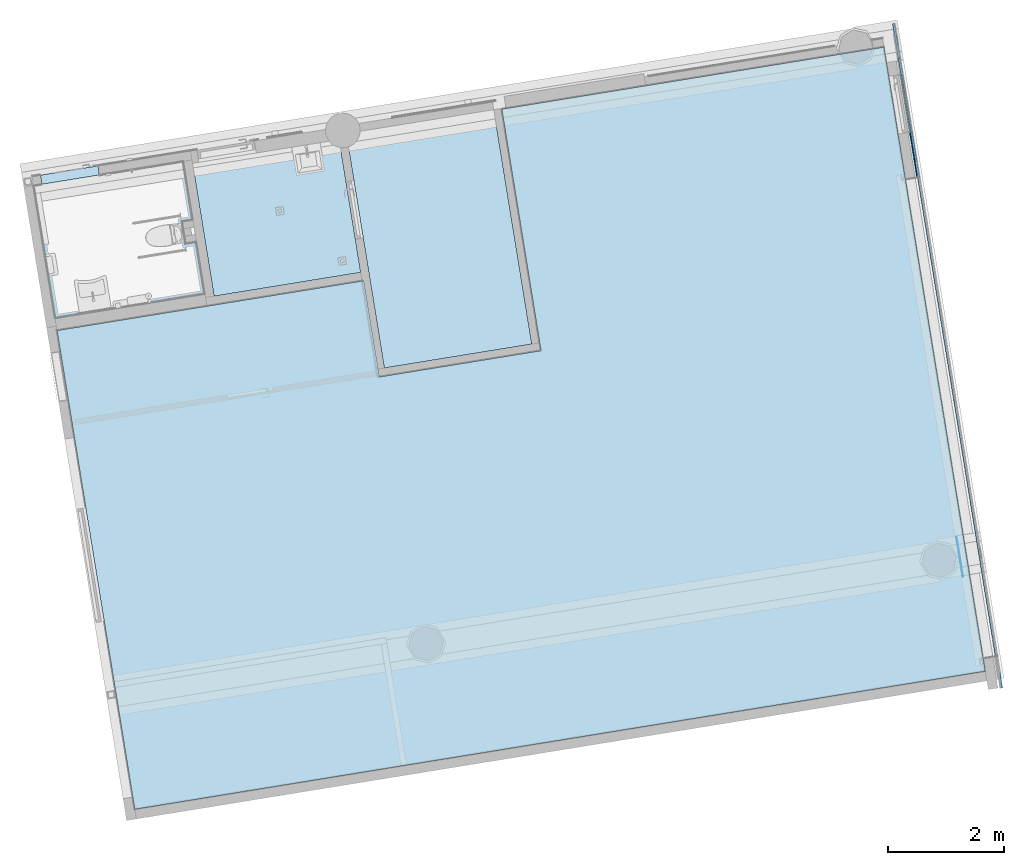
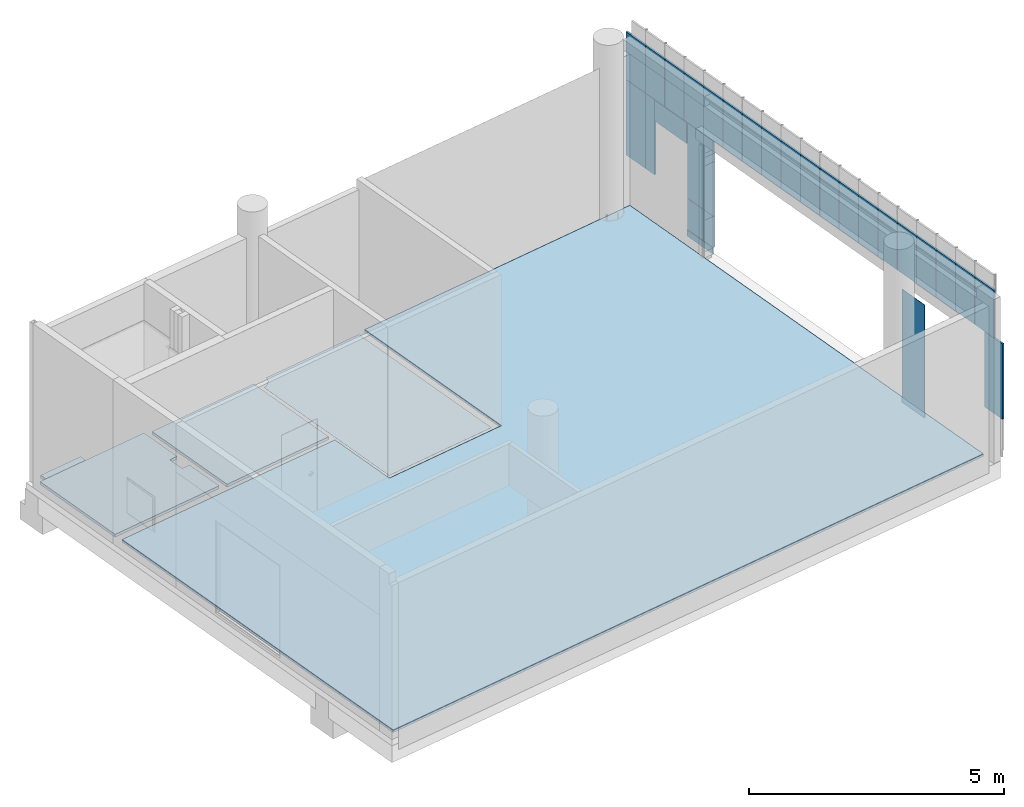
# One storey, part 13 of 38: 29 plates, 7 slabs, 2 elements without a shape of their own.
"""IFC2X3 building model written with IfcOpenShell, lengths in millimetres."""

import ifcopenshell
import ifcopenshell.guid

model = None  # the IFC model being written
_history = None  # IfcOwnerHistory: only IFC2X3 demands one
_inside = {}  # id of a spatial element -> (the spatial element, [elements in it])
_under = {}  # id of a project, library or spatial element -> (it, [spatial elements below it])
_declared = {}  # id of a project -> (the project, [libraries it declares])
_typed = {}  # id of a type object -> (the type object, [elements of that type])
_made_of = {}  # id of a material, layer set ... -> (it, [elements and type objects made of it])


def new_model(schema):
    """Start an empty IFC model of exactly this schema.

    Asked for "IFC4X3", IfcOpenShell would pick the latest addendum, in which some entities
    have other attributes; the version numbers below select the first issue.
    IFC2X3 requires an IfcOwnerHistory on every rooted entity: one is made here for all.
    """
    global model, _history
    if schema == "IFC4X3":
        model = ifcopenshell.file(schema_version=(4, 3, 0, 0))
    else:
        model = ifcopenshell.file(schema=schema)
    _inside.clear()
    _under.clear()
    _declared.clear()
    _typed.clear()
    _made_of.clear()
    _history = None
    if model.schema == "IFC2X3":
        org = make("IfcOrganization", Name="unknown")
        user = make(
            "IfcPersonAndOrganization",
            ThePerson=make("IfcPerson", FamilyName="unknown"),
            TheOrganization=org,
        )
        app = make(
            "IfcApplication",
            ApplicationDeveloper=org,
            Version="unknown",
            ApplicationFullName="unknown",
            ApplicationIdentifier="unknown",
        )
        _history = make(
            "IfcOwnerHistory",
            OwningUser=user,
            OwningApplication=app,
            ChangeAction="ADDED",
            CreationDate=0,
        )
    return model


def make(cls, **values):
    """One entity of the class cls with the attributes given. An attribute that is None is left unset."""
    return model.create_entity(
        cls, **{name: value for name, value in values.items() if value is not None}
    )


def entity(cls, *values):
    """Any entity or typed value of the class cls, its attributes in the order of the schema. None: left unset."""
    e = model.create_entity(cls)
    for i, value in enumerate(values):
        if value is not None:
            e[i] = value
    return e


def rooted(cls, **values):
    """An entity with a GlobalId (a new one), such as an element, a storey or a relation."""
    return make(cls, GlobalId=ifcopenshell.guid.new(), OwnerHistory=_history, **values)


def si_unit(unit_type, name, prefix=None):
    """IfcSIUnit, for example si_unit("LENGTHUNIT", "METRE", prefix="MILLI")."""
    return make("IfcSIUnit", UnitType=unit_type, Prefix=prefix, Name=name)


def converted_unit(unit_type, name, factor, base, dimensions=None, offset=None):
    """IfcConversionBasedUnit, such as the inch: factor (a typed value) times the base unit."""
    return make(
        "IfcConversionBasedUnit"
        if offset is None
        else "IfcConversionBasedUnitWithOffset",
        ConversionOffset=offset,
        Dimensions=None
        if dimensions is None
        else entity("IfcDimensionalExponents", *dimensions),
        UnitType=unit_type,
        Name=name,
        ConversionFactor=make(
            "IfcMeasureWithUnit", ValueComponent=factor, UnitComponent=base
        ),
    )


def derived_unit(unit_type, elements):
    """IfcDerivedUnit: a product of units, each with its exponent."""
    return make(
        "IfcDerivedUnit",
        Elements=[
            make("IfcDerivedUnitElement", Unit=unit, Exponent=power)
            for unit, power in elements
        ],
        UnitType=unit_type,
    )


def assignment(units):
    """IfcUnitAssignment: the units of a project."""
    return None if units is None else make("IfcUnitAssignment", Units=units)


def point(xyz):
    """IfcCartesianPoint."""
    return None if xyz is None else make("IfcCartesianPoint", Coordinates=xyz)


def direction(xyz):
    """IfcDirection."""
    return None if xyz is None else make("IfcDirection", DirectionRatios=xyz)


def frame(location, z_axis=None, x_axis=None):
    """IfcAxis2Placement3D, a coordinate frame: its origin and axes. An axis left out is left unset."""
    return make(
        "IfcAxis2Placement3D",
        Location=point(location),
        Axis=direction(z_axis),
        RefDirection=direction(x_axis),
    )


def frame_2d(location, x_axis=None):
    """IfcAxis2Placement2D, a coordinate frame in the plane: its origin and x axis."""
    return make(
        "IfcAxis2Placement2D", Location=point(location), RefDirection=direction(x_axis)
    )


def origin():
    """The frame at (0, 0, 0) with its axes left unset."""
    return frame((0.0, 0.0, 0.0))


def origin_with_axes():
    """The frame at (0, 0, 0) with the z axis (0, 0, 1) and the x axis (1, 0, 0) written out."""
    return frame((0.0, 0.0, 0.0), z_axis=(0.0, 0.0, 1.0), x_axis=(1.0, 0.0, 0.0))


def origin_2d_with_axis():
    """The frame at (0, 0) in the plane with the x axis (1, 0) written out."""
    return frame_2d((0.0, 0.0), x_axis=(1.0, 0.0))


def place(relative_to, where):
    """IfcLocalPlacement: puts the frame where relative to a parent placement (None: the world)."""
    return make(
        "IfcLocalPlacement", PlacementRelTo=relative_to, RelativePlacement=where
    )


def context(
    kind, dimensions, precision=None, world=None, true_north=None, identifier=None
):
    """IfcGeometricRepresentationContext, for example the 3D "Model" context."""
    return make(
        "IfcGeometricRepresentationContext",
        ContextIdentifier=identifier,
        ContextType=kind,
        CoordinateSpaceDimension=dimensions,
        Precision=precision,
        WorldCoordinateSystem=world,
        TrueNorth=true_north,
    )


def subcontext(parent, identifier, kind, view, scale=None):
    """IfcGeometricRepresentationSubContext, for example "Body" below "Model"."""
    return make(
        "IfcGeometricRepresentationSubContext",
        ContextIdentifier=identifier,
        ContextType=kind,
        ParentContext=parent,
        TargetScale=scale,
        TargetView=view,
    )


def project(units=None, contexts=None):
    """IfcProject with its units and contexts."""
    return rooted(
        "IfcProject",
        Name="project",
        RepresentationContexts=contexts,
        UnitsInContext=assignment(units),
    )


def spatial(cls, under=None, at=None, **own):
    """A site, building, storey or space (cls), placed at a placement, below another one or the project."""
    s = rooted(cls, ObjectPlacement=at, **own)
    if under is not None:
        _under.setdefault(under.id(), (under, []))[1].append(s)
    return s


def polyline(points):
    """IfcPolyline through the points."""
    return make("IfcPolyline", Points=[point(p) for p in points])


def circle_curve(where, radius):
    """IfcCircle in the frame where."""
    return make("IfcCircle", Position=where, Radius=radius)


def parameter(value):
    """IfcParameterValue: where a trimmed curve begins or ends, as a parameter of its basis curve."""
    return model.create_entity("IfcParameterValue", value)


def trimmed(basis, trim1, trim2, sense, master):
    """IfcTrimmedCurve: the piece of a basis curve between two trims."""
    return make(
        "IfcTrimmedCurve",
        BasisCurve=basis,
        Trim1=trim1,
        Trim2=trim2,
        SenseAgreement=sense,
        MasterRepresentation=master,
    )


def segment(curve, same_sense, transition):
    """IfcCompositeCurveSegment."""
    return make(
        "IfcCompositeCurveSegment",
        Transition=transition,
        SameSense=same_sense,
        ParentCurve=curve,
    )


def composite_curve(segments, self_intersect=None):
    """IfcCompositeCurve: segments joined end to end."""
    return make("IfcCompositeCurve", Segments=segments, SelfIntersect=self_intersect)


def profile(cls, at=None, kind="AREA", **sizes):
    """A parametric profile (cls). Its sizes go by their IFC names, for example OverallWidth=200.0."""
    return make(cls, ProfileType=kind, Position=at, **sizes)


def rectangle(**sizes):
    """IfcRectangleProfileDef."""
    return profile("IfcRectangleProfileDef", **sizes)


def outline(outer, holes=None, kind="AREA"):
    """IfcArbitraryClosedProfileDef: a profile drawn as a closed curve; with holes, ...WithVoids."""
    if holes is None:
        return make("IfcArbitraryClosedProfileDef", ProfileType=kind, OuterCurve=outer)
    return make(
        "IfcArbitraryProfileDefWithVoids",
        ProfileType=kind,
        OuterCurve=outer,
        InnerCurves=holes,
    )


def extrude(swept, where, along, depth):
    """IfcExtrudedAreaSolid: the profile swept, set in the frame where, extruded along a direction by depth."""
    return make(
        "IfcExtrudedAreaSolid",
        SweptArea=swept,
        Position=where,
        ExtrudedDirection=direction(along),
        Depth=depth,
    )


def shape(context_of_items, identifier, shape_type, items):
    """IfcShapeRepresentation: the items that make up one representation, for example the "Body"."""
    return make(
        "IfcShapeRepresentation",
        ContextOfItems=context_of_items,
        RepresentationIdentifier=identifier,
        RepresentationType=shape_type,
        Items=items,
    )


def source(mapping_origin, context_of_items, identifier, shape_type, items):
    """IfcRepresentationMap: a shape defined once, which mapped items show again and again."""
    return make(
        "IfcRepresentationMap",
        MappingOrigin=mapping_origin,
        MappedRepresentation=shape(context_of_items, identifier, shape_type, items),
    )


def transform(
    local_origin,
    x_axis=None,
    y_axis=None,
    z_axis=None,
    scale=None,
    scale2=None,
    scale3=None,
    uniform=True,
):
    """IfcCartesianTransformationOperator3D, or its non-uniform kind. x_axis, y_axis, z_axis: its Axis1, 2, 3."""
    if uniform:
        return make(
            "IfcCartesianTransformationOperator3D",
            Axis1=direction(x_axis),
            Axis2=direction(y_axis),
            LocalOrigin=point(local_origin),
            Scale=scale,
            Axis3=direction(z_axis),
        )
    return make(
        "IfcCartesianTransformationOperator3DnonUniform",
        Axis1=direction(x_axis),
        Axis2=direction(y_axis),
        LocalOrigin=point(local_origin),
        Scale=scale,
        Axis3=direction(z_axis),
        Scale2=scale2,
        Scale3=scale3,
    )


def mapped(mapping_source, mapping_target):
    """IfcMappedItem: shows the shape of a source again, moved by a transform."""
    return make(
        "IfcMappedItem", MappingSource=mapping_source, MappingTarget=mapping_target
    )


def material(Name=None, Category=None):
    """IfcMaterial."""
    return make("IfcMaterial", Name=Name, Category=Category)


def layer(
    of_material, thickness, ventilated=None, Name=None, Category=None, Priority=None
):
    """IfcMaterialLayer: one layer of a wall or slab, of a material (None: an air gap)."""
    return make(
        "IfcMaterialLayer",
        Material=of_material,
        LayerThickness=thickness,
        IsVentilated=ventilated,
        Name=Name,
        Category=Category,
        Priority=Priority,
    )


def layer_set(layers, Name=None):
    """IfcMaterialLayerSet."""
    return make("IfcMaterialLayerSet", MaterialLayers=layers, LayerSetName=Name)


def layer_usage(for_layer_set, set_direction, sense, offset, extent=None):
    """IfcMaterialLayerSetUsage: how a layer set lies in its element."""
    return make(
        "IfcMaterialLayerSetUsage",
        ForLayerSet=for_layer_set,
        LayerSetDirection=set_direction,
        DirectionSense=sense,
        OffsetFromReferenceLine=offset,
        ReferenceExtent=extent,
    )


def made_of(thing, what):
    """Note that an element or type object is made of a material, layer set ...; save() writes the relation."""
    if what is not None:
        _made_of.setdefault(what.id(), (what, []))[1].append(thing)
    return thing


def type_object(cls, material=None, **own):
    """A type object (cls), such as IfcWallType, which elements share."""
    return made_of(rooted(cls, **own), material)


def element(
    cls,
    number,
    at=None,
    inside=None,
    cuts=None,
    type_object=None,
    material=None,
    context=None,
    identifier="Body",
    shape_type=None,
    held_by="IfcProductDefinitionShape",
    body=None,
    shapes=None,
    **own,
):
    """One element of the class cls, such as IfcWall. Its Tag is "e" and its number.

    at: its placement. inside: the storey or other place that contains it. cuts: it is an
    opening in that element (IfcRelVoidsElement). A single representation is given by context,
    identifier, shape_type and body (its items); several are given by shapes. held_by: the class
    of the entity that holds the representations. save() writes the other relations.
    """
    e = rooted(cls, Tag="e%d" % number, ObjectPlacement=at, **own)
    if body is not None:
        shapes = [shape(context, identifier, shape_type, body)]
    if shapes is not None:
        e.Representation = make(held_by, Representations=shapes)
    if inside is not None:
        _inside.setdefault(inside.id(), (inside, []))[1].append(e)
    if cuts is not None:
        rooted(
            "IfcRelVoidsElement", RelatingBuildingElement=cuts, RelatedOpeningElement=e
        )
    if type_object is not None:
        _typed.setdefault(type_object.id(), (type_object, []))[1].append(e)
    return made_of(e, material)


def aggregate(whole, parts):
    """IfcRelAggregates: a whole, such as a stair, and the parts it consists of."""
    return rooted("IfcRelAggregates", RelatingObject=whole, RelatedObjects=parts)


def save(model, path):
    """Write the relations noted so far, then the file.

    IfcRelAggregates (storeys below a building ...), IfcRelContainedInSpatialStructure (elements
    in a storey), IfcRelDefinesByType, IfcRelAssociatesMaterial and IfcRelDeclares: one each for
    every whole, place, type object, material and project.
    """
    for whole, parts in _under.values():
        aggregate(whole, parts)
    for where, things in _inside.values():
        rooted(
            "IfcRelContainedInSpatialStructure",
            RelatedElements=things,
            RelatingStructure=where,
        )
    for kind, things in _typed.values():
        rooted("IfcRelDefinesByType", RelatedObjects=things, RelatingType=kind)
    for what, things in _made_of.values():
        rooted("IfcRelAssociatesMaterial", RelatedObjects=things, RelatingMaterial=what)
    for by, libraries in _declared.values():
        rooted("IfcRelDeclares", RelatingContext=by, RelatedDefinitions=libraries)
    model.write(path)


model = new_model("IFC2X3")

# Units and contexts
model_context = context("Model", 3, precision=0.01, world=origin(), true_north=direction((6.12323399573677e-17, 1.0)))
plan_context = context("Plan", 3, precision=1e-05, world=origin_with_axes())
body_context = subcontext(model_context, "Body", "Model", "MODEL_VIEW")
ifc_project = project(units=[converted_unit("PLANEANGLEUNIT", "DEGREE", entity("IfcPositiveLengthMeasure", 0.0174532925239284), si_unit("PLANEANGLEUNIT", "RADIAN"), dimensions=[0, 0, 0, 0, 0, 0, 0]), si_unit("AREAUNIT", "SQUARE_METRE"), si_unit("LENGTHUNIT", "METRE", prefix="MILLI"), si_unit("MASSUNIT", "GRAM", prefix="KILO"), si_unit("POWERUNIT", "WATT"), si_unit("PRESSUREUNIT", "PASCAL", prefix="KILO"), si_unit("FORCEUNIT", "NEWTON", prefix="KILO"), si_unit("ELECTRICVOLTAGEUNIT", "VOLT"), si_unit("ELECTRICCURRENTUNIT", "AMPERE"), si_unit("THERMODYNAMICTEMPERATUREUNIT", "DEGREE_CELSIUS"), si_unit("TIMEUNIT", "SECOND"), si_unit("VOLUMEUNIT", "CUBIC_METRE"), derived_unit("LINEARVELOCITYUNIT", [(si_unit("LENGTHUNIT", "METRE"), 1), (si_unit("TIMEUNIT", "SECOND"), -1)]), derived_unit("VOLUMETRICFLOWRATEUNIT", [(si_unit("VOLUMEUNIT", "CUBIC_METRE"), 1), (si_unit("TIMEUNIT", "SECOND"), -1)]), derived_unit("THERMALTRANSMITTANCEUNIT", [(si_unit("POWERUNIT", "WATT"), 1), (si_unit("THERMODYNAMICTEMPERATUREUNIT", "KELVIN"), -1), (si_unit("AREAUNIT", "SQUARE_METRE"), -1)]), derived_unit("SOUNDPRESSUREUNIT", [(si_unit("PRESSUREUNIT", "PASCAL"), 1)])], contexts=[model_context, plan_context])

# Site, building, storey
site_placement = place(None, frame((-0.00071070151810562, 0.00438415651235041, 0.0), z_axis=(0.0, 0.0, 1.0), x_axis=(-0.160236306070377, 0.987078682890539, 0.0)))
site = spatial("IfcSite", under=ifc_project, at=site_placement, Name="Default", CompositionType="ELEMENT")
building_placement = place(site_placement, origin_with_axes())
building = spatial("IfcBuilding", under=site, at=building_placement, Name="TOO", CompositionType="ELEMENT")
storey_placement = place(building_placement, frame((0.0, 0.0, 50999.9999999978), z_axis=(0.0, 0.0, 1.0), x_axis=(1.0, 0.0, 0.0)))
storey = spatial("IfcBuildingStorey", under=building, at=storey_placement, Name="Nivå D-H01", CompositionType="ELEMENT", Elevation=50999.9999999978)

# Curtain wall, plates
curtain_wall_type = type_object("IfcCurtainWallType", Name="Curtain Wall:Curtain Wall Standard (Bruk kun denne)", PredefinedType="NOTDEFINED")
curtain_wall_1_placement = place(storey_placement, frame((0.0, 0.0, -50999.9999999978), z_axis=(0.0, 0.0, 1.0), x_axis=(1.0, 0.0, 0.0)))
curtain_wall_1 = element("IfcCurtainWall", 1, at=curtain_wall_1_placement, inside=storey, type_object=curtain_wall_type, Name="Curtain Wall:Curtain Wall Standard (Bruk kun denne)", ObjectType="Curtain Wall:Curtain Wall Standard (Bruk kun denne)")
ifc_material_1 = material(Name="A246 - M _veggkledning metall")
plate_type_1 = type_object("IfcPlateType", Name="A249-S01 - Sokkel veggkledning:A249-S01 - Sokkel veggkledning", PredefinedType="CURTAIN_PANEL", material=ifc_material_1)
shared_shape_1 = source(origin(), body_context, "Body", "SweptSolid", [
    extrude(rectangle(XDim=20.0, YDim=797.500000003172, at=frame_2d((-3.5527136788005e-15, 0.0), x_axis=(1.0, 0.0))), frame((0.0, -40.0, 0.0), z_axis=(0.0, 0.0, 1.0), x_axis=(0.0, -1.0, 0.0)), (0.0, 0.0, 1.0), 147.500000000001),
])
plate_1_placement = place(curtain_wall_1_placement, frame((777878.869644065, -604232.480498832, 50999.9999999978), z_axis=(0.0, 0.0, 1.0), x_axis=(-1.0, 0.0, 0.0)))
plate_1 = element("IfcPlate", 2, at=plate_1_placement, type_object=plate_type_1, material=ifc_material_1, Name="A249-S01 - Sokkel veggkledning:A249-S01 - Sokkel veggkledning", ObjectType="A249-S01 - Sokkel veggkledning:A249-S01 - Sokkel veggkledning", context=body_context, shape_type="MappedRepresentation", body=[
    mapped(shared_shape_1, transform((0.0, 0.0, 0.0), scale=1.0)),
])
ifc_material_2 = material(Name="A246 - T _veggkledning trespiler")
plate_type_2 = type_object("IfcPlateType", Name="System Panel:A246-T01 - Trespiler", PredefinedType="CURTAIN_PANEL", material=ifc_material_2)
shared_shape_2 = source(origin(), body_context, "Body", "SweptSolid", [
    extrude(rectangle(XDim=40.0, YDim=490.000000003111, at=origin_2d_with_axis()), frame((0.0, -20.0, 0.0), z_axis=(0.0, 0.0, 1.0), x_axis=(0.0, 1.0, 0.0)), (0.0, 0.0, 1.0), 745.000000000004),
])
plate_2_placement = place(curtain_wall_1_placement, frame((778025.119644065, -604232.480498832, 51152.4999999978), z_axis=(0.0, 0.0, 1.0), x_axis=(-1.0, 0.0, 0.0)))
plate_2 = element("IfcPlate", 3, at=plate_2_placement, type_object=plate_type_2, material=ifc_material_2, Name="System Panel:A246-T01 - Trespiler", ObjectType="System Panel:A246-T01 - Trespiler", context=body_context, shape_type="MappedRepresentation", body=[
    mapped(shared_shape_2, transform((0.0, 0.0, 0.0), scale=1.0)),
])
plate_type_3 = type_object("IfcPlateType", Name="System Panel:A246-T01 - Trespiler", PredefinedType="CURTAIN_PANEL", material=ifc_material_2)
shared_shape_3 = source(origin(), body_context, "Body", "SweptSolid", [
    extrude(rectangle(XDim=40.0, YDim=295.000000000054, at=origin_2d_with_axis()), frame((0.0, -20.0, 0.0), z_axis=(0.0, 0.0, 1.0), x_axis=(0.0, 1.0, 0.0)), (0.0, 0.0, 1.0), 745.000000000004),
])
plate_3_placement = place(curtain_wall_1_placement, frame((777627.619644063, -604232.480498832, 51152.4999999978), z_axis=(0.0, 0.0, 1.0), x_axis=(-1.0, 0.0, 0.0)))
plate_3 = element("IfcPlate", 4, at=plate_3_placement, type_object=plate_type_3, material=ifc_material_2, Name="System Panel:A246-T01 - Trespiler", ObjectType="System Panel:A246-T01 - Trespiler", context=body_context, shape_type="MappedRepresentation", body=[
    mapped(shared_shape_3, transform((0.0, 0.0, 0.0), scale=1.0)),
])
plate_type_4 = type_object("IfcPlateType", Name="System Panel:A246-T01 - Trespiler", PredefinedType="CURTAIN_PANEL", material=ifc_material_2)
shared_shape_4 = source(origin(), body_context, "Body", "SweptSolid", [
    extrude(rectangle(XDim=1800.0, YDim=595.000000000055, at=frame_2d((-338.5, 0.0), x_axis=(1.0, 0.0))), frame((0.0, -40.0, 1238.5), z_axis=(0.0, 1.0, 0.0), x_axis=(0.0, 0.0, 1.0)), (0.0, 0.0, 1.0), 40.0),
])
plate_4_placement = place(curtain_wall_1_placement, frame((779877.619644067, -604232.480498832, 51902.4999999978), z_axis=(0.0, 0.0, 1.0), x_axis=(-1.0, 0.0, 0.0)))
plate_4 = element("IfcPlate", 5, at=plate_4_placement, type_object=plate_type_4, material=ifc_material_2, Name="System Panel:A246-T01 - Trespiler", ObjectType="System Panel:A246-T01 - Trespiler", context=body_context, shape_type="MappedRepresentation", body=[
    mapped(shared_shape_4, transform((0.0, 0.0, 0.0), scale=1.0)),
])
plate_type_5 = type_object("IfcPlateType", Name="System Panel:A246-T01 - Trespiler", PredefinedType="CURTAIN_PANEL", material=ifc_material_2)
shared_shape_5 = source(origin(), body_context, "Body", "SweptSolid", [
    extrude(rectangle(XDim=1800.0, YDim=280.000000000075, at=frame_2d((-338.5, 0.0), x_axis=(1.0, 0.0))), frame((0.0, -40.0, 1238.5), z_axis=(0.0, 1.0, 0.0), x_axis=(0.0, 0.0, 1.0)), (0.0, 0.0, 1.0), 40.0),
])
plate_5_placement = place(curtain_wall_1_placement, frame((779435.119644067, -604232.480498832, 51902.4999999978), z_axis=(0.0, 0.0, 1.0), x_axis=(-1.0, 0.0, 0.0)))
plate_5 = element("IfcPlate", 6, at=plate_5_placement, type_object=plate_type_5, material=ifc_material_2, Name="System Panel:A246-T01 - Trespiler", ObjectType="System Panel:A246-T01 - Trespiler", context=body_context, shape_type="MappedRepresentation", body=[
    mapped(shared_shape_5, transform((0.0, 0.0, 0.0), scale=1.0)),
])
plate_type_6 = type_object("IfcPlateType", Name="System Panel:A246-T01 - Trespiler", PredefinedType="CURTAIN_PANEL", material=ifc_material_2)
shared_shape_6 = source(origin(), body_context, "Body", "SweptSolid", [
    extrude(rectangle(XDim=1800.0, YDim=490.000000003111, at=frame_2d((-338.5, 0.0), x_axis=(1.0, 0.0))), frame((0.0, -40.0, 1238.5), z_axis=(0.0, 1.0, 0.0), x_axis=(0.0, 0.0, 1.0)), (0.0, 0.0, 1.0), 40.0),
])
plate_6_placement = place(curtain_wall_1_placement, frame((778025.119644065, -604232.480498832, 51902.4999999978), z_axis=(0.0, 0.0, 1.0), x_axis=(-1.0, 0.0, 0.0)))
plate_6 = element("IfcPlate", 7, at=plate_6_placement, type_object=plate_type_6, material=ifc_material_2, Name="System Panel:A246-T01 - Trespiler", ObjectType="System Panel:A246-T01 - Trespiler", context=body_context, shape_type="MappedRepresentation", body=[
    mapped(shared_shape_6, transform((0.0, 0.0, 0.0), scale=1.0)),
])
plate_type_7 = type_object("IfcPlateType", Name="System Panel:A246-T01 - Trespiler", PredefinedType="CURTAIN_PANEL", material=ifc_material_2)
shared_shape_7 = source(origin(), body_context, "Body", "SweptSolid", [
    extrude(rectangle(XDim=1800.0, YDim=295.000000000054, at=frame_2d((-338.5, 0.0), x_axis=(1.0, 0.0))), frame((0.0, -40.0, 1238.5), z_axis=(0.0, 1.0, 0.0), x_axis=(0.0, 0.0, 1.0)), (0.0, 0.0, 1.0), 40.0),
])
plate_7_placement = place(curtain_wall_1_placement, frame((777627.619644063, -604232.480498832, 51902.4999999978), z_axis=(0.0, 0.0, 1.0), x_axis=(-1.0, 0.0, 0.0)))
plate_7 = element("IfcPlate", 8, at=plate_7_placement, type_object=plate_type_7, material=ifc_material_2, Name="System Panel:A246-T01 - Trespiler", ObjectType="System Panel:A246-T01 - Trespiler", context=body_context, shape_type="MappedRepresentation", body=[
    mapped(shared_shape_7, transform((0.0, 0.0, 0.0), scale=1.0)),
])
plate_type_8 = type_object("IfcPlateType", Name="System Panel:A246-T01 - Trespiler", PredefinedType="CURTAIN_PANEL", material=ifc_material_2)
shared_shape_8 = source(origin(), body_context, "Body", "SweptSolid", [
    extrude(rectangle(XDim=1800.0, YDim=555.000000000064, at=frame_2d((-282.083333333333, -3.33333333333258), x_axis=(1.0, 0.0))), frame((3.33333333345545, -40.0, 1182.08333333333), z_axis=(0.0, 1.0, 0.0), x_axis=(0.0, 0.0, 1.0)), (0.0, 0.0, 1.0), 40.0),
])
plate_8_placement = place(curtain_wall_1_placement, frame((768797.619644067, -604232.480498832, 51902.4999999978), z_axis=(0.0, 0.0, 1.0), x_axis=(-1.0, 0.0, 0.0)))
plate_8 = element("IfcPlate", 9, at=plate_8_placement, type_object=plate_type_8, material=ifc_material_2, Name="System Panel:A246-T01 - Trespiler", ObjectType="System Panel:A246-T01 - Trespiler", context=body_context, shape_type="MappedRepresentation", body=[
    mapped(shared_shape_8, transform((0.0, 0.0, 0.0), scale=1.0)),
])
ifc_material_3 = material(Name="A246 - L _veggkledning laminat")
plate_type_9 = type_object("IfcPlateType", Name="System Panel:A246-L06 - Laminatpanel toppfelt/skilting ved dør", PredefinedType="CURTAIN_PANEL", material=ifc_material_3)
shared_shape_9 = source(origin(), body_context, "Body", "SweptSolid", [
    extrude(rectangle(XDim=499.999999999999, YDim=994.999999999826, at=frame_2d((0.833333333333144, -34.9999999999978), x_axis=(1.0, 0.0))), frame((35.0, -50.0, 249.166666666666), z_axis=(0.0, 1.0, 0.0), x_axis=(0.0, 0.0, 1.0)), (0.0, 0.0, 1.0), 20.0),
])
plate_9_placement = place(curtain_wall_1_placement, frame((778782.619644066, -604232.480498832, 53202.4999999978), z_axis=(0.0, 0.0, 1.0), x_axis=(-1.0, 0.0, 0.0)))
plate_9 = element("IfcPlate", 10, at=plate_9_placement, type_object=plate_type_9, material=ifc_material_3, Name="System Panel:A246-L06 - Laminatpanel toppfelt/skilting ved dør", ObjectType="System Panel:A246-L06 - Laminatpanel toppfelt/skilting ved dør", context=body_context, shape_type="MappedRepresentation", body=[
    mapped(shared_shape_9, transform((0.0, 0.0, 0.0), scale=1.0)),
])
plate_type_10 = type_object("IfcPlateType", Name="System Panel:A246-T01 - Trespiler", PredefinedType="CURTAIN_PANEL", material=ifc_material_2)
shared_shape_10 = source(origin(), body_context, "Body", "SweptSolid", [
    extrude(rectangle(XDim=40.0, YDim=595.000000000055, at=origin_2d_with_axis()), frame((0.0, -20.0, 0.0), z_axis=(0.0, 0.0, 1.0), x_axis=(0.0, 1.0, 0.0)), (0.0, 0.0, 1.0), 1140.00000000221),
])
plate_10_placement = place(curtain_wall_1_placement, frame((779877.619644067, -604232.480498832, 53707.4999999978), z_axis=(0.0, 0.0, 1.0), x_axis=(-1.0, 0.0, 0.0)))
plate_10 = element("IfcPlate", 11, at=plate_10_placement, type_object=plate_type_10, material=ifc_material_2, Name="System Panel:A246-T01 - Trespiler", ObjectType="System Panel:A246-T01 - Trespiler", context=body_context, shape_type="MappedRepresentation", body=[
    mapped(shared_shape_10, transform((0.0, 0.0, 0.0), scale=1.0)),
])
plate_11_placement = place(curtain_wall_1_placement, frame((778677.619644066, -604232.480498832, 53707.4999999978), z_axis=(0.0, 0.0, 1.0), x_axis=(-1.0, 0.0, 0.0)))
plate_11 = element("IfcPlate", 12, at=plate_11_placement, type_object=plate_type_10, material=ifc_material_2, Name="System Panel:A246-T01 - Trespiler", ObjectType="System Panel:A246-T01 - Trespiler", context=body_context, shape_type="MappedRepresentation", body=[
    mapped(shared_shape_10, transform((0.0, 0.0, 0.0), scale=1.0)),
])
plate_12_placement = place(curtain_wall_1_placement, frame((776877.619644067, -604232.480498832, 53707.4999999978), z_axis=(0.0, 0.0, 1.0), x_axis=(-1.0, 0.0, 0.0)))
plate_12 = element("IfcPlate", 13, at=plate_12_placement, type_object=plate_type_10, material=ifc_material_2, Name="System Panel:A246-T01 - Trespiler", ObjectType="System Panel:A246-T01 - Trespiler", context=body_context, shape_type="MappedRepresentation", body=[
    mapped(shared_shape_10, transform((0.0, 0.0, 0.0), scale=1.0)),
])
plate_13_placement = place(curtain_wall_1_placement, frame((776277.619644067, -604232.480498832, 53707.4999999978), z_axis=(0.0, 0.0, 1.0), x_axis=(-1.0, 0.0, 0.0)))
plate_13 = element("IfcPlate", 14, at=plate_13_placement, type_object=plate_type_10, material=ifc_material_2, Name="System Panel:A246-T01 - Trespiler", ObjectType="System Panel:A246-T01 - Trespiler", context=body_context, shape_type="MappedRepresentation", body=[
    mapped(shared_shape_10, transform((0.0, 0.0, 0.0), scale=1.0)),
])
plate_14_placement = place(curtain_wall_1_placement, frame((775677.619644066, -604232.480498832, 53707.4999999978), z_axis=(0.0, 0.0, 1.0), x_axis=(-1.0, 0.0, 0.0)))
plate_14 = element("IfcPlate", 15, at=plate_14_placement, type_object=plate_type_10, material=ifc_material_2, Name="System Panel:A246-T01 - Trespiler", ObjectType="System Panel:A246-T01 - Trespiler", context=body_context, shape_type="MappedRepresentation", body=[
    mapped(shared_shape_10, transform((0.0, 0.0, 0.0), scale=1.0)),
])
plate_15_placement = place(curtain_wall_1_placement, frame((775077.619644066, -604232.480498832, 53707.4999999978), z_axis=(0.0, 0.0, 1.0), x_axis=(-1.0, 0.0, 0.0)))
plate_15 = element("IfcPlate", 16, at=plate_15_placement, type_object=plate_type_10, material=ifc_material_2, Name="System Panel:A246-T01 - Trespiler", ObjectType="System Panel:A246-T01 - Trespiler", context=body_context, shape_type="MappedRepresentation", body=[
    mapped(shared_shape_10, transform((0.0, 0.0, 0.0), scale=1.0)),
])
plate_16_placement = place(curtain_wall_1_placement, frame((774477.619644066, -604232.480498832, 53707.4999999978), z_axis=(0.0, 0.0, 1.0), x_axis=(-1.0, 0.0, 0.0)))
plate_16 = element("IfcPlate", 17, at=plate_16_placement, type_object=plate_type_10, material=ifc_material_2, Name="System Panel:A246-T01 - Trespiler", ObjectType="System Panel:A246-T01 - Trespiler", context=body_context, shape_type="MappedRepresentation", body=[
    mapped(shared_shape_10, transform((0.0, 0.0, 0.0), scale=1.0)),
])
plate_17_placement = place(curtain_wall_1_placement, frame((773877.619644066, -604232.480498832, 53707.4999999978), z_axis=(0.0, 0.0, 1.0), x_axis=(-1.0, 0.0, 0.0)))
plate_17 = element("IfcPlate", 18, at=plate_17_placement, type_object=plate_type_10, material=ifc_material_2, Name="System Panel:A246-T01 - Trespiler", ObjectType="System Panel:A246-T01 - Trespiler", context=body_context, shape_type="MappedRepresentation", body=[
    mapped(shared_shape_10, transform((0.0, 0.0, 0.0), scale=1.0)),
])
plate_18_placement = place(curtain_wall_1_placement, frame((773277.619644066, -604232.480498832, 53707.4999999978), z_axis=(0.0, 0.0, 1.0), x_axis=(-1.0, 0.0, 0.0)))
plate_18 = element("IfcPlate", 19, at=plate_18_placement, type_object=plate_type_10, material=ifc_material_2, Name="System Panel:A246-T01 - Trespiler", ObjectType="System Panel:A246-T01 - Trespiler", context=body_context, shape_type="MappedRepresentation", body=[
    mapped(shared_shape_10, transform((0.0, 0.0, 0.0), scale=1.0)),
])
plate_19_placement = place(curtain_wall_1_placement, frame((772677.619644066, -604232.480498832, 53707.4999999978), z_axis=(0.0, 0.0, 1.0), x_axis=(-1.0, 0.0, 0.0)))
plate_19 = element("IfcPlate", 20, at=plate_19_placement, type_object=plate_type_10, material=ifc_material_2, Name="System Panel:A246-T01 - Trespiler", ObjectType="System Panel:A246-T01 - Trespiler", context=body_context, shape_type="MappedRepresentation", body=[
    mapped(shared_shape_10, transform((0.0, 0.0, 0.0), scale=1.0)),
])
plate_20_placement = place(curtain_wall_1_placement, frame((772077.619644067, -604232.480498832, 53707.4999999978), z_axis=(0.0, 0.0, 1.0), x_axis=(-1.0, 0.0, 0.0)))
plate_20 = element("IfcPlate", 21, at=plate_20_placement, type_object=plate_type_10, material=ifc_material_2, Name="System Panel:A246-T01 - Trespiler", ObjectType="System Panel:A246-T01 - Trespiler", context=body_context, shape_type="MappedRepresentation", body=[
    mapped(shared_shape_10, transform((0.0, 0.0, 0.0), scale=1.0)),
])
plate_21_placement = place(curtain_wall_1_placement, frame((771477.619644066, -604232.480498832, 53707.4999999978), z_axis=(0.0, 0.0, 1.0), x_axis=(-1.0, 0.0, 0.0)))
plate_21 = element("IfcPlate", 22, at=plate_21_placement, type_object=plate_type_10, material=ifc_material_2, Name="System Panel:A246-T01 - Trespiler", ObjectType="System Panel:A246-T01 - Trespiler", context=body_context, shape_type="MappedRepresentation", body=[
    mapped(shared_shape_10, transform((0.0, 0.0, 0.0), scale=1.0)),
])
plate_22_placement = place(curtain_wall_1_placement, frame((770877.619644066, -604232.480498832, 53707.4999999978), z_axis=(0.0, 0.0, 1.0), x_axis=(-1.0, 0.0, 0.0)))
plate_22 = element("IfcPlate", 23, at=plate_22_placement, type_object=plate_type_10, material=ifc_material_2, Name="System Panel:A246-T01 - Trespiler", ObjectType="System Panel:A246-T01 - Trespiler", context=body_context, shape_type="MappedRepresentation", body=[
    mapped(shared_shape_10, transform((0.0, 0.0, 0.0), scale=1.0)),
])
plate_23_placement = place(curtain_wall_1_placement, frame((770277.619644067, -604232.480498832, 53707.4999999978), z_axis=(0.0, 0.0, 1.0), x_axis=(-1.0, 0.0, 0.0)))
plate_23 = element("IfcPlate", 24, at=plate_23_placement, type_object=plate_type_10, material=ifc_material_2, Name="System Panel:A246-T01 - Trespiler", ObjectType="System Panel:A246-T01 - Trespiler", context=body_context, shape_type="MappedRepresentation", body=[
    mapped(shared_shape_10, transform((0.0, 0.0, 0.0), scale=1.0)),
])
plate_24_placement = place(curtain_wall_1_placement, frame((769677.619644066, -604232.480498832, 53707.4999999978), z_axis=(0.0, 0.0, 1.0), x_axis=(-1.0, 0.0, 0.0)))
plate_24 = element("IfcPlate", 25, at=plate_24_placement, type_object=plate_type_10, material=ifc_material_2, Name="System Panel:A246-T01 - Trespiler", ObjectType="System Panel:A246-T01 - Trespiler", context=body_context, shape_type="MappedRepresentation", body=[
    mapped(shared_shape_10, transform((0.0, 0.0, 0.0), scale=1.0)),
])
plate_type_11 = type_object("IfcPlateType", Name="System Panel:A246-T01 - Trespiler", PredefinedType="CURTAIN_PANEL", material=ifc_material_2)
shared_shape_11 = source(origin(), body_context, "Body", "SweptSolid", [
    extrude(rectangle(XDim=1140.00000000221, YDim=595.000000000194, at=frame_2d((0.0, 3.33333333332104), x_axis=(1.0, 0.0))), frame((-3.33333333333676, -40.0, 570.000000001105), z_axis=(0.0, 1.0, 0.0), x_axis=(0.0, 0.0, 1.0)), (0.0, 0.0, 1.0), 40.0),
])
plate_25_placement = place(curtain_wall_1_placement, frame((779277.619644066, -604232.480498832, 53707.4999999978), z_axis=(0.0, 0.0, 1.0), x_axis=(-1.0, 0.0, 0.0)))
plate_25 = element("IfcPlate", 26, at=plate_25_placement, type_object=plate_type_11, material=ifc_material_2, Name="System Panel:A246-T01 - Trespiler", ObjectType="System Panel:A246-T01 - Trespiler", context=body_context, shape_type="MappedRepresentation", body=[
    mapped(shared_shape_11, transform((0.0, 0.0, 0.0), scale=1.0)),
])
plate_type_12 = type_object("IfcPlateType", Name="System Panel:A246-T01 - Trespiler", PredefinedType="CURTAIN_PANEL", material=ifc_material_2)
shared_shape_12 = source(origin(), body_context, "Body", "SweptSolid", [
    extrude(rectangle(XDim=1140.00000000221, YDim=595.000000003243, at=frame_2d((0.0, 66.6666666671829), x_axis=(1.0, 0.0))), frame((-66.66666666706, -40.0, 570.000000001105), z_axis=(0.0, 1.0, 0.0), x_axis=(0.0, 0.0, 1.0)), (0.0, 0.0, 1.0), 40.0),
])
plate_26_placement = place(curtain_wall_1_placement, frame((778077.619644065, -604232.480498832, 53707.4999999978), z_axis=(0.0, 0.0, 1.0), x_axis=(-1.0, 0.0, 0.0)))
plate_26 = element("IfcPlate", 27, at=plate_26_placement, type_object=plate_type_12, material=ifc_material_2, Name="System Panel:A246-T01 - Trespiler", ObjectType="System Panel:A246-T01 - Trespiler", context=body_context, shape_type="MappedRepresentation", body=[
    mapped(shared_shape_12, transform((0.0, 0.0, 0.0), scale=1.0)),
])
plate_type_13 = type_object("IfcPlateType", Name="System Panel:A246-T01 - Trespiler", PredefinedType="CURTAIN_PANEL", material=ifc_material_2)
shared_shape_13 = source(origin(), body_context, "Body", "SweptSolid", [
    extrude(rectangle(XDim=1140.00000000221, YDim=595.000000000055, at=origin_2d_with_axis()), frame((0.0, -40.0, 570.000000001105), z_axis=(0.0, 1.0, 0.0), x_axis=(0.0, 0.0, 1.0)), (0.0, 0.0, 1.0), 40.0),
])
plate_27_placement = place(curtain_wall_1_placement, frame((777477.619644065, -604232.480498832, 53707.4999999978), z_axis=(0.0, 0.0, 1.0), x_axis=(-1.0, 0.0, 0.0)))
plate_27 = element("IfcPlate", 28, at=plate_27_placement, type_object=plate_type_13, material=ifc_material_2, Name="System Panel:A246-T01 - Trespiler", ObjectType="System Panel:A246-T01 - Trespiler", context=body_context, shape_type="MappedRepresentation", body=[
    mapped(shared_shape_13, transform((0.0, 0.0, 0.0), scale=1.0)),
])
plate_28_placement = place(curtain_wall_1_placement, frame((769077.619644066, -604232.480498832, 53707.4999999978), z_axis=(0.0, 0.0, 1.0), x_axis=(-1.0, 0.0, 0.0)))
plate_28 = element("IfcPlate", 29, at=plate_28_placement, type_object=plate_type_13, material=ifc_material_2, Name="System Panel:A246-T01 - Trespiler", ObjectType="System Panel:A246-T01 - Trespiler", context=body_context, shape_type="MappedRepresentation", body=[
    mapped(shared_shape_13, transform((0.0, 0.0, 0.0), scale=1.0)),
])
aggregate(curtain_wall_1, [plate_1, plate_2, plate_3, plate_4, plate_5, plate_6, plate_7, plate_8, plate_9, plate_10, plate_25, plate_11, plate_26, plate_27, plate_12, plate_13, plate_14, plate_15, plate_16, plate_17, plate_18, plate_19, plate_20, plate_21, plate_22, plate_23, plate_24, plate_28])

# Curtain wall, plate
curtain_wall_2_placement = place(storey_placement, frame((0.0, 0.0, -50999.9999999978), z_axis=(0.0, 0.0, 1.0), x_axis=(1.0, 0.0, 0.0)))
curtain_wall_2 = element("IfcCurtainWall", 30, at=curtain_wall_2_placement, inside=storey, type_object=curtain_wall_type, Name="Curtain Wall:Curtain Wall Standard (Bruk kun denne)", ObjectType="Curtain Wall:Curtain Wall Standard (Bruk kun denne)")
ifc_material_4 = material(Name="A246 - GL _veggkledning glass opalt hvit")
plate_type_14 = type_object("IfcPlateType", Name="System Panel:A246-GL01 - Glasspanel opaque (RA)", PredefinedType="CURTAIN_PANEL", material=ifc_material_4)
shared_shape_14 = source(origin(), body_context, "Body", "SweptSolid", [
    extrude(rectangle(XDim=10.0, YDim=699.999999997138, at=origin_2d_with_axis()), frame((0.0, 5.0, 0.0), z_axis=(0.0, 0.0, 1.0), x_axis=(0.0, 1.0, 0.0)), (0.0, 0.0, 1.0), 2700.0),
])
plate_29_placement = place(curtain_wall_2_placement, frame((770877.619644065, -603857.693702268, 50999.9999999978), z_axis=(0.0, 0.0, 1.0), x_axis=(-1.0, 0.0, 0.0)))
plate_29 = element("IfcPlate", 31, at=plate_29_placement, type_object=plate_type_14, material=ifc_material_4, Name="System Panel:A246-GL01 - Glasspanel opaque (RA)", ObjectType="System Panel:A246-GL01 - Glasspanel opaque (RA)", context=body_context, shape_type="MappedRepresentation", body=[
    mapped(shared_shape_14, transform((0.0, 0.0, 0.0), scale=1.0)),
])
aggregate(curtain_wall_2, [plate_29])

# Slabs
ifc_material_5 = material(Name="A255 - K01")
ifc_layer_1 = layer(ifc_material_5, 11.0)
ifc_material_6 = material(Name="A200 - Lim")
ifc_layer_2 = layer(ifc_material_6, 9.0)
ifc_material_7 = material(Name="_NSW Generell Gulv (Floor)")
ifc_layer_3 = layer(ifc_material_7, 50.0)
ifc_layer_set_1 = layer_set([ifc_layer_1, ifc_layer_2, ifc_layer_3], Name="Floor:A255-K01 Keramisk flis - Mørk 600x600mm")
ifc_layer_usage_1 = layer_usage(ifc_layer_set_1, "AXIS3", "POSITIVE", 0.0)
slab_type_1 = type_object("IfcSlabType", Name="Floor:A255-K01 Keramisk flis - Mørk 600x600mm", PredefinedType="FLOOR", material=ifc_layer_set_1)
slab_1_placement = place(storey_placement, origin_with_axes())
element("IfcSlab", 32, at=slab_1_placement, inside=storey, type_object=slab_type_1, material=ifc_layer_usage_1, Name="Floor:A255-K01 Keramisk flis - Mørk 600x600mm", ObjectType="Floor:A255-K01 Keramisk flis - Mørk 600x600mm", PredefinedType="FLOOR", context=body_context, shape_type="SweptSolid", body=[
    extrude(outline(polyline([(-704.263253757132, -1137.37500000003), (1925.73674624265, -1137.37500000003), (1925.73674624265, 1192.12499999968), (-704.263253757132, 1192.12499999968), (-704.263253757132, 162.625000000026), (-517.210238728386, 162.625000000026), (-517.210238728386, -217.374999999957), (-704.263253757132, -217.374999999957), (-704.263253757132, -1137.37500000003)])), frame((778600.494644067, -590988.218485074, 0.0), z_axis=(0.0, 0.0, -1.0), x_axis=(0.0, 1.0, 0.0)), (0.0, 0.0, 1.0), 70.0000000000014),
])
ifc_layer_4 = layer(ifc_material_7, 10.0)
ifc_layer_set_2 = layer_set([ifc_layer_4], Name="Floor:A255-KA avrettingsmasse 10mm")
ifc_layer_usage_2 = layer_usage(ifc_layer_set_2, "AXIS3", "POSITIVE", 0.0)
slab_type_2 = type_object("IfcSlabType", Name="Floor:A255-KA avrettingsmasse 10mm", PredefinedType="FLOOR", material=ifc_layer_set_2)
slab_2_placement = place(storey_placement, origin_with_axes())
element("IfcSlab", 33, at=slab_2_placement, inside=storey, type_object=slab_type_2, material=ifc_layer_usage_2, Name="Floor:A255-KA avrettingsmasse 10mm", ObjectType="Floor:A255-KA avrettingsmasse 10mm", PredefinedType="FLOOR", context=body_context, shape_type="SweptSolid", body=[
    extrude(outline(polyline([(-6515.62499999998, -7129.68657000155), (1884.37500000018, -7129.68657000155), (1884.37500000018, -1745.93780999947), (196.875000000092, -1745.93780999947), (196.875000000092, 1085.31219000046), (4434.37500000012, 1085.31219000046), (4434.37500000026, 7790.31219000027), (-6515.62499999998, 7790.31219000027), (-6515.62499999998, -7129.68657000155)])), frame((775368.244644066, -596192.168308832, -10.0), z_axis=(0.0, 0.0, -1.0), x_axis=(1.0, 0.0, 0.0)), (0.0, 0.0, 1.0), 9.99999999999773),
])
ifc_material_8 = material(Name="246-F01")
ifc_layer_5 = layer(ifc_material_8, 5.0)
ifc_material_9 = material(Name="FLIS- ANSATT - Tiles 200 x 200")
ifc_layer_6 = layer(ifc_material_9, 65.0)
ifc_layer_set_3 = layer_set([ifc_layer_5, ifc_layer_6], Name="Floor:A255-K02 Keramisk flis ansatte arealer")
ifc_layer_usage_3 = layer_usage(ifc_layer_set_3, "AXIS3", "POSITIVE", 0.0)
slab_type_3 = type_object("IfcSlabType", Name="Floor:A255-K02 Keramisk flis ansatte arealer", PredefinedType="FLOOR", material=ifc_layer_set_3)
slab_3_placement = place(storey_placement, origin_with_axes())
element("IfcSlab", 34, at=slab_3_placement, inside=storey, type_object=slab_type_3, material=ifc_layer_usage_3, Name="Floor:A255-K02 Keramisk flis ansatte arealer", ObjectType="Floor:A255-K02 Keramisk flis ansatte arealer", PredefinedType="FLOOR", context=body_context, shape_type="SweptSolid", body=[
    extrude(rectangle(XDim=2572.49876000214, YDim=2330.0000000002, at=origin_2d_with_axis()), frame((778567.619644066, -593128.731118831, 0.0), z_axis=(0.0, 0.0, -1.0), x_axis=(0.0, 1.0, 0.0)), (0.0, 0.0, 1.0), 70.0000000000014),
])
ifc_material_10 = material(Name="255-ML06")
ifc_layer_7 = layer(ifc_material_10, 2.0)
ifc_layer_set_4 = layer_set([ifc_layer_7], Name="Floor:A255-ML06")
ifc_layer_usage_4 = layer_usage(ifc_layer_set_4, "AXIS3", "POSITIVE", 0.0)
slab_type_4 = type_object("IfcSlabType", Name="Floor:A255-ML06", PredefinedType="FLOOR", material=ifc_layer_set_4)
slab_4_placement = place(storey_placement, frame((752640.119644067, -603982.480498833, -70.0), z_axis=(0.0, 0.0, 1.0), x_axis=(1.0, 0.0, 0.0)))
element("IfcSlab", 35, at=slab_4_placement, inside=storey, type_object=slab_type_4, material=ifc_layer_usage_4, Name="Floor:A255-ML06:6", ObjectType="Floor:A255-ML06", PredefinedType="FLOOR", context=body_context, shape_type="SweptSolid", body=[
    extrude(outline(composite_curve([segment(polyline([(27033.7500000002, -24447.4999999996), (31146.2500000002, -24447.4999999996)]), True, "CONTINUOUS"), segment(polyline([(31146.2500000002, -24447.4999999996), (31146.2500000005, -21860.0)]), True, "CONTINUOUS"), segment(polyline([(31146.2500000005, -21860.0), (27270.5460092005, -21860.0)]), True, "CONTINUOUS"), segment(trimmed(circle_curve(frame_2d((26974.7059326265, -21810.2139668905), x_axis=(-1.0, 0.0)), 300.000000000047), [parameter(101.350686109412)], [parameter(170.447373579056)], True, "PARAMETER"), False, "CONTINUOUS"), segment(polyline([(27033.7500000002, -22104.3462468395), (27033.7500000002, -24447.4999999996)]), True, "CONTINUOUS")], self_intersect=False)), frame((54208.75, 31290.0, 2.0), z_axis=(0.0, 0.0, -1.0), x_axis=(-1.0, 0.0, 0.0)), (0.0, 0.0, 1.0), 1.99999999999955),
])
ifc_material_11 = material(Name="255 - keramisk flis sort 450x900")
ifc_layer_8 = layer(ifc_material_11, 11.0)
ifc_layer_9 = layer(ifc_material_6, 9.0)
ifc_layer_10 = layer(ifc_material_7, 50.0)
ifc_layer_set_5 = layer_set([ifc_layer_8, ifc_layer_9, ifc_layer_10], Name="Floor:A255-K04 Keramisk flis - Mørk 900x450")
ifc_layer_usage_5 = layer_usage(ifc_layer_set_5, "AXIS3", "POSITIVE", 0.0)
slab_type_5 = type_object("IfcSlabType", Name="Floor:A255-K04 Keramisk flis - Mørk 900x450", PredefinedType="FLOOR", material=ifc_layer_set_5)
slab_5_placement = place(storey_placement, origin_with_axes())
element("IfcSlab", 36, at=slab_5_placement, inside=storey, type_object=slab_type_5, material=ifc_layer_usage_5, Name="Floor:A255-K04 Keramisk flis - Mørk 900x450", ObjectType="Floor:A255-K04 Keramisk flis - Mørk 900x450", PredefinedType="FLOOR", context=body_context, shape_type="SweptSolid", body=[
    extrude(rectangle(XDim=1009.99999999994, YDim=159.999999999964, at=origin_2d_with_axis()), frame((779872.619644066, -589714.638231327, 0.0), z_axis=(0.0, 0.0, -1.0), x_axis=(0.0, 1.0, 0.0)), (0.0, 0.0, 1.0), 70.0000000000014),
])
ifc_material_12 = material(Name="_NSW Betong paastøp")
ifc_layer_11 = layer(ifc_material_12, 50.0)
ifc_layer_set_6 = layer_set([ifc_layer_11], Name="Floor:A253 - Betong Påstop 50 mm")
ifc_layer_usage_6 = layer_usage(ifc_layer_set_6, "AXIS3", "POSITIVE", 0.0)
slab_type_6 = type_object("IfcSlabType", Name="Floor:A253 - Betong Påstop 50 mm", PredefinedType="FLOOR", material=ifc_layer_set_6)
slab_6_placement = place(storey_placement, origin_with_axes())
element("IfcSlab", 37, at=slab_6_placement, inside=storey, type_object=slab_type_6, material=ifc_layer_usage_6, Name="Floor:A253 - Betong Påstop 50 mm", ObjectType="Floor:A253 - Betong Påstop 50 mm", PredefinedType="FLOOR", context=body_context, shape_type="SweptSolid", body=[
    extrude(outline(polyline([(-6515.62499999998, -7129.68657000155), (1884.37500000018, -7129.68657000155), (1884.37500000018, -1745.93780999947), (196.875000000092, -1745.93780999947), (196.875000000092, 1085.31219000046), (4434.37500000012, 1085.31219000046), (4434.37500000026, 7790.31219000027), (-6515.62499999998, 7790.31219000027), (-6515.62499999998, -7129.68657000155)])), frame((775368.244644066, -596192.168308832, -20.0), z_axis=(0.0, 0.0, -1.0), x_axis=(1.0, 0.0, 0.0)), (0.0, 0.0, 1.0), 49.9999999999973),
])
ifc_material_13 = material(Name="Rubber")
ifc_layer_12 = layer(ifc_material_13, 2.0)
ifc_layer_13 = layer(ifc_material_7, 68.0)
ifc_layer_set_7 = layer_set([ifc_layer_12, ifc_layer_13], Name="Floor:A255-KOM01")
ifc_layer_usage_7 = layer_usage(ifc_layer_set_7, "AXIS3", "POSITIVE", 0.0)
slab_type_7 = type_object("IfcSlabType", Name="Floor:A255-KOM01", PredefinedType="FLOOR", material=ifc_layer_set_7)
slab_7_placement = place(storey_placement, origin_with_axes())
element("IfcSlab", 38, at=slab_7_placement, inside=storey, type_object=slab_type_7, material=ifc_layer_usage_7, Name="Floor:A255-KOM01", ObjectType="Floor:A255-KOM01", PredefinedType="FLOOR", context=body_context, shape_type="SweptSolid", body=[
    extrude(outline(polyline([(-6515.62499999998, -7129.68657000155), (1884.37500000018, -7129.68657000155), (1884.37500000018, -1745.93780999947), (196.875000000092, -1745.93780999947), (196.875000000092, 1085.31219000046), (4434.37500000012, 1085.31219000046), (4434.37500000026, 7790.31219000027), (-6515.62499999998, 7790.31219000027), (-6515.62499999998, -7129.68657000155)])), frame((775368.244644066, -596192.168308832, 0.0), z_axis=(0.0, 0.0, -1.0), x_axis=(1.0, 0.0, 0.0)), (0.0, 0.0, 1.0), 70.0000000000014),
])

save(model, "model.ifc")
